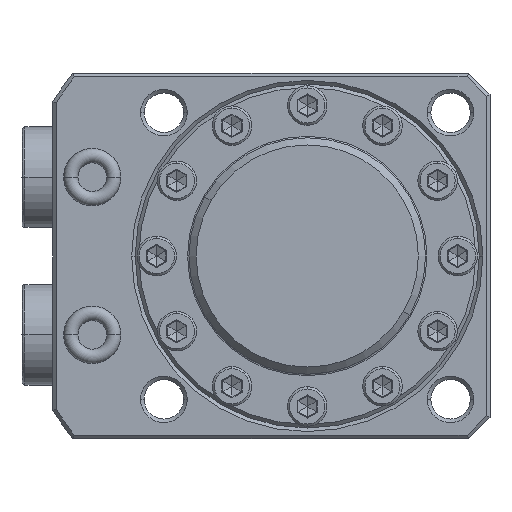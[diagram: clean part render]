
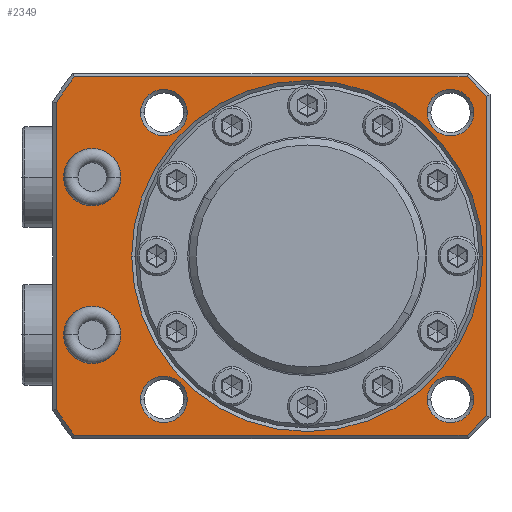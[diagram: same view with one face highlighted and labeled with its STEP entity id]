
A CAD part, front view. The second image highlights one B-rep face of the part: STEP entity #2349.
In plain terms, the highlighted planar face has unit normal (0, -1, 0).
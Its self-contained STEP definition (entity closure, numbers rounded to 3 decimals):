
#271=DIRECTION('',(-1.,0.,0.));
#272=VECTOR('',#271,54.789);
#273=CARTESIAN_POINT('',(22.293,-8.5,25.));
#274=LINE('',#273,#272);
#275=DIRECTION('',(-0.707,0.,0.707));
#276=VECTOR('',#275,3.828);
#277=CARTESIAN_POINT('',(25.,-8.5,22.293));
#278=LINE('',#277,#276);
#279=DIRECTION('',(0.,0.,1.));
#280=VECTOR('',#279,44.586);
#281=CARTESIAN_POINT('',(25.,-8.5,-22.293));
#282=LINE('',#281,#280);
#283=DIRECTION('',(0.707,0.,0.707));
#284=VECTOR('',#283,3.828);
#285=CARTESIAN_POINT('',(22.293,-8.5,-25.));
#286=LINE('',#285,#284);
#287=DIRECTION('',(1.,0.,0.));
#288=VECTOR('',#287,54.789);
#289=CARTESIAN_POINT('',(-32.496,-8.5,-25.));
#290=LINE('',#289,#288);
#291=CARTESIAN_POINT('',(0.,-8.5,0.));
#292=DIRECTION('',(0.,-1.,0.));
#293=DIRECTION('',(-0.854,0.,-0.521));
#294=AXIS2_PLACEMENT_3D('',#291,#292,#293);
#296=DIRECTION('',(0.,0.,-1.));
#297=VECTOR('',#296,42.708);
#298=CARTESIAN_POINT('',(-35.,-8.5,21.354));
#299=LINE('',#298,#297);
#300=CARTESIAN_POINT('',(0.,-8.5,0.));
#301=DIRECTION('',(0.,-1.,0.));
#302=DIRECTION('',(-0.793,0.,0.61));
#303=AXIS2_PLACEMENT_3D('',#300,#301,#302);
#305=CARTESIAN_POINT('',(-30.,-8.5,-11.));
#306=DIRECTION('',(0.,-1.,0.));
#307=DIRECTION('',(-1.,0.,0.));
#308=AXIS2_PLACEMENT_3D('',#305,#306,#307);
#310=CARTESIAN_POINT('',(-30.,-8.5,-11.));
#311=DIRECTION('',(0.,-1.,0.));
#312=DIRECTION('',(1.,0.,0.));
#313=AXIS2_PLACEMENT_3D('',#310,#311,#312);
#315=CARTESIAN_POINT('',(-30.,-8.5,11.));
#316=DIRECTION('',(0.,-1.,0.));
#317=DIRECTION('',(-1.,0.,0.));
#318=AXIS2_PLACEMENT_3D('',#315,#316,#317);
#320=CARTESIAN_POINT('',(-30.,-8.5,11.));
#321=DIRECTION('',(0.,-1.,0.));
#322=DIRECTION('',(1.,0.,0.));
#323=AXIS2_PLACEMENT_3D('',#320,#321,#322);
#325=CARTESIAN_POINT('',(20.,-8.5,20.));
#326=DIRECTION('',(0.,1.,0.));
#327=DIRECTION('',(-1.,0.,0.));
#328=AXIS2_PLACEMENT_3D('',#325,#326,#327);
#330=CARTESIAN_POINT('',(20.,-8.5,20.));
#331=DIRECTION('',(0.,1.,0.));
#332=DIRECTION('',(1.,0.,0.));
#333=AXIS2_PLACEMENT_3D('',#330,#331,#332);
#335=CARTESIAN_POINT('',(20.,-8.5,-20.));
#336=DIRECTION('',(0.,1.,0.));
#337=DIRECTION('',(-1.,0.,0.));
#338=AXIS2_PLACEMENT_3D('',#335,#336,#337);
#340=CARTESIAN_POINT('',(20.,-8.5,-20.));
#341=DIRECTION('',(0.,1.,0.));
#342=DIRECTION('',(1.,0.,0.));
#343=AXIS2_PLACEMENT_3D('',#340,#341,#342);
#345=CARTESIAN_POINT('',(-20.,-8.5,20.));
#346=DIRECTION('',(0.,1.,0.));
#347=DIRECTION('',(-1.,0.,0.));
#348=AXIS2_PLACEMENT_3D('',#345,#346,#347);
#350=CARTESIAN_POINT('',(-20.,-8.5,20.));
#351=DIRECTION('',(0.,1.,0.));
#352=DIRECTION('',(1.,0.,0.));
#353=AXIS2_PLACEMENT_3D('',#350,#351,#352);
#355=CARTESIAN_POINT('',(-20.,-8.5,-20.));
#356=DIRECTION('',(0.,1.,0.));
#357=DIRECTION('',(-1.,0.,0.));
#358=AXIS2_PLACEMENT_3D('',#355,#356,#357);
#360=CARTESIAN_POINT('',(-20.,-8.5,-20.));
#361=DIRECTION('',(0.,1.,0.));
#362=DIRECTION('',(1.,0.,0.));
#363=AXIS2_PLACEMENT_3D('',#360,#361,#362);
#365=CARTESIAN_POINT('',(0.,-8.5,0.));
#366=DIRECTION('',(0.,-1.,0.));
#367=DIRECTION('',(-1.,0.,0.));
#368=AXIS2_PLACEMENT_3D('',#365,#366,#367);
#370=CARTESIAN_POINT('',(0.,-8.5,0.));
#371=DIRECTION('',(0.,-1.,0.));
#372=DIRECTION('',(1.,0.,0.));
#373=AXIS2_PLACEMENT_3D('',#370,#371,#372);
#1707=CARTESIAN_POINT('',(-34.,-8.5,-11.));
#1708=CARTESIAN_POINT('',(-26.,-8.5,-11.));
#1709=VERTEX_POINT('',#1707);
#1710=VERTEX_POINT('',#1708);
#1715=CARTESIAN_POINT('',(-34.,-8.5,11.));
#1716=CARTESIAN_POINT('',(-26.,-8.5,11.));
#1717=VERTEX_POINT('',#1715);
#1718=VERTEX_POINT('',#1716);
#1747=CARTESIAN_POINT('',(16.75,-8.5,20.));
#1748=CARTESIAN_POINT('',(23.25,-8.5,20.));
#1749=VERTEX_POINT('',#1747);
#1750=VERTEX_POINT('',#1748);
#1755=CARTESIAN_POINT('',(16.75,-8.5,-20.));
#1756=CARTESIAN_POINT('',(23.25,-8.5,-20.));
#1757=VERTEX_POINT('',#1755);
#1758=VERTEX_POINT('',#1756);
#1763=CARTESIAN_POINT('',(-23.25,-8.5,20.));
#1764=CARTESIAN_POINT('',(-16.75,-8.5,20.));
#1765=VERTEX_POINT('',#1763);
#1766=VERTEX_POINT('',#1764);
#1771=CARTESIAN_POINT('',(-23.25,-8.5,-20.));
#1772=CARTESIAN_POINT('',(-16.75,-8.5,-20.));
#1773=VERTEX_POINT('',#1771);
#1774=VERTEX_POINT('',#1772);
#1799=CARTESIAN_POINT('',(-24.5,-8.5,0.));
#1800=CARTESIAN_POINT('',(24.5,-8.5,0.));
#1801=VERTEX_POINT('',#1799);
#1802=VERTEX_POINT('',#1800);
#1815=CARTESIAN_POINT('',(22.293,-8.5,25.));
#1816=CARTESIAN_POINT('',(-32.496,-8.5,25.));
#1817=VERTEX_POINT('',#1815);
#1818=VERTEX_POINT('',#1816);
#1835=CARTESIAN_POINT('',(-32.496,-8.5,-25.));
#1836=CARTESIAN_POINT('',(22.293,-8.5,-25.));
#1837=VERTEX_POINT('',#1835);
#1838=VERTEX_POINT('',#1836);
#1843=CARTESIAN_POINT('',(25.,-8.5,-22.293));
#1844=CARTESIAN_POINT('',(25.,-8.5,22.293));
#1845=VERTEX_POINT('',#1843);
#1846=VERTEX_POINT('',#1844);
#1859=CARTESIAN_POINT('',(-35.,-8.5,21.354));
#1860=CARTESIAN_POINT('',(-35.,-8.5,-21.354));
#1861=VERTEX_POINT('',#1859);
#1862=VERTEX_POINT('',#1860);
#2285=CARTESIAN_POINT('',(0.,-8.5,0.));
#2286=DIRECTION('',(0.,-1.,0.));
#2287=DIRECTION('',(-1.,0.,0.));
#2288=AXIS2_PLACEMENT_3D('',#2285,#2286,#2287);
#2289=PLANE('',#2288);
#2291=ORIENTED_EDGE('',*,*,#2290,.F.);
#2293=ORIENTED_EDGE('',*,*,#2292,.F.);
#2295=ORIENTED_EDGE('',*,*,#2294,.F.);
#2297=ORIENTED_EDGE('',*,*,#2296,.F.);
#2299=ORIENTED_EDGE('',*,*,#2298,.F.);
#2301=ORIENTED_EDGE('',*,*,#2300,.F.);
#2302=ORIENTED_EDGE('',*,*,#2275,.F.);
#2304=ORIENTED_EDGE('',*,*,#2303,.F.);
#2305=EDGE_LOOP('',(#2291,#2293,#2295,#2297,#2299,#2301,#2302,#2304));
#2306=FACE_OUTER_BOUND('',#2305,.F.);
#2308=ORIENTED_EDGE('',*,*,#2307,.T.);
#2310=ORIENTED_EDGE('',*,*,#2309,.T.);
#2311=EDGE_LOOP('',(#2308,#2310));
#2312=FACE_BOUND('',#2311,.F.);
#2314=ORIENTED_EDGE('',*,*,#2313,.T.);
#2316=ORIENTED_EDGE('',*,*,#2315,.T.);
#2317=EDGE_LOOP('',(#2314,#2316));
#2318=FACE_BOUND('',#2317,.F.);
#2320=ORIENTED_EDGE('',*,*,#2319,.F.);
#2322=ORIENTED_EDGE('',*,*,#2321,.F.);
#2323=EDGE_LOOP('',(#2320,#2322));
#2324=FACE_BOUND('',#2323,.F.);
#2326=ORIENTED_EDGE('',*,*,#2325,.F.);
#2328=ORIENTED_EDGE('',*,*,#2327,.F.);
#2329=EDGE_LOOP('',(#2326,#2328));
#2330=FACE_BOUND('',#2329,.F.);
#2332=ORIENTED_EDGE('',*,*,#2331,.F.);
#2334=ORIENTED_EDGE('',*,*,#2333,.F.);
#2335=EDGE_LOOP('',(#2332,#2334));
#2336=FACE_BOUND('',#2335,.F.);
#2338=ORIENTED_EDGE('',*,*,#2337,.F.);
#2340=ORIENTED_EDGE('',*,*,#2339,.F.);
#2341=EDGE_LOOP('',(#2338,#2340));
#2342=FACE_BOUND('',#2341,.F.);
#2344=ORIENTED_EDGE('',*,*,#2343,.T.);
#2346=ORIENTED_EDGE('',*,*,#2345,.T.);
#2347=EDGE_LOOP('',(#2344,#2346));
#2348=FACE_BOUND('',#2347,.F.);
#2349=ADVANCED_FACE('',(#2306,#2312,#2318,#2324,#2330,#2336,#2342,#2348),#2289,
.T.);
#295=CIRCLE('',#294,41.);
#304=CIRCLE('',#303,41.);
#309=CIRCLE('',#308,4.);
#314=CIRCLE('',#313,4.);
#319=CIRCLE('',#318,4.);
#324=CIRCLE('',#323,4.);
#329=CIRCLE('',#328,3.25);
#334=CIRCLE('',#333,3.25);
#339=CIRCLE('',#338,3.25);
#344=CIRCLE('',#343,3.25);
#349=CIRCLE('',#348,3.25);
#354=CIRCLE('',#353,3.25);
#359=CIRCLE('',#358,3.25);
#364=CIRCLE('',#363,3.25);
#369=CIRCLE('',#368,24.5);
#374=CIRCLE('',#373,24.5);
#2275=EDGE_CURVE('',#1861,#1862,#299,.T.);
#2290=EDGE_CURVE('',#1817,#1818,#274,.T.);
#2292=EDGE_CURVE('',#1846,#1817,#278,.T.);
#2294=EDGE_CURVE('',#1845,#1846,#282,.T.);
#2296=EDGE_CURVE('',#1838,#1845,#286,.T.);
#2298=EDGE_CURVE('',#1837,#1838,#290,.T.);
#2300=EDGE_CURVE('',#1862,#1837,#295,.T.);
#2303=EDGE_CURVE('',#1818,#1861,#304,.T.);
#2307=EDGE_CURVE('',#1709,#1710,#309,.T.);
#2309=EDGE_CURVE('',#1710,#1709,#314,.T.);
#2313=EDGE_CURVE('',#1717,#1718,#319,.T.);
#2315=EDGE_CURVE('',#1718,#1717,#324,.T.);
#2319=EDGE_CURVE('',#1749,#1750,#329,.T.);
#2321=EDGE_CURVE('',#1750,#1749,#334,.T.);
#2325=EDGE_CURVE('',#1757,#1758,#339,.T.);
#2327=EDGE_CURVE('',#1758,#1757,#344,.T.);
#2331=EDGE_CURVE('',#1765,#1766,#349,.T.);
#2333=EDGE_CURVE('',#1766,#1765,#354,.T.);
#2337=EDGE_CURVE('',#1773,#1774,#359,.T.);
#2339=EDGE_CURVE('',#1774,#1773,#364,.T.);
#2343=EDGE_CURVE('',#1801,#1802,#369,.T.);
#2345=EDGE_CURVE('',#1802,#1801,#374,.T.);
